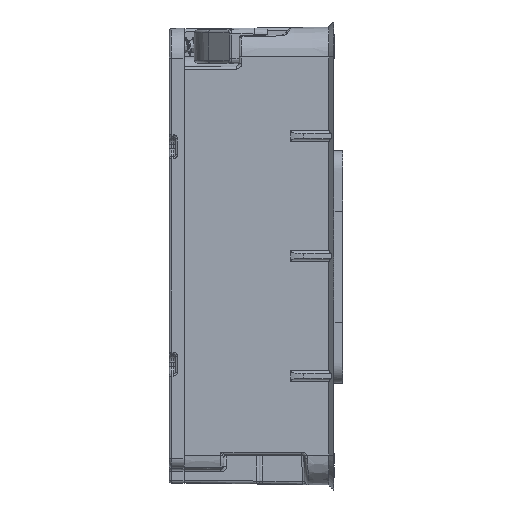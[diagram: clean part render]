
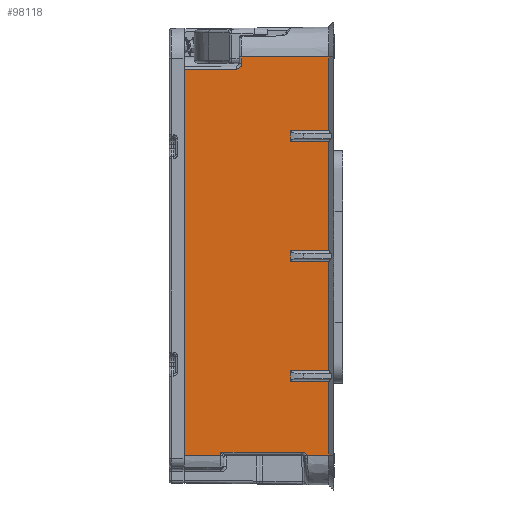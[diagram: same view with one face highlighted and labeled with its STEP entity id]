
A CAD part, left-side view. The second image highlights one B-rep face of the part: STEP entity #98118.
In plain terms, the highlighted planar face has unit normal (-1, 0.014, 0).
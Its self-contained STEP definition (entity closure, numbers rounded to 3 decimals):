
#1607=LINE('',#142205,#13844);
#1608=LINE('',#142210,#13845);
#1609=LINE('',#142215,#13846);
#1610=LINE('',#142216,#13847);
#1611=LINE('',#142220,#13848);
#1617=LINE('',#142272,#13854);
#1738=LINE('',#142592,#13975);
#1739=LINE('',#142594,#13976);
#1740=LINE('',#142596,#13977);
#1741=LINE('',#142597,#13978);
#1742=LINE('',#142601,#13979);
#1743=LINE('',#142603,#13980);
#1744=LINE('',#142605,#13981);
#1745=LINE('',#142607,#13982);
#1746=LINE('',#142609,#13983);
#1747=LINE('',#142612,#13984);
#1748=LINE('',#142614,#13985);
#1749=LINE('',#142616,#13986);
#1750=LINE('',#142617,#13987);
#1751=LINE('',#142619,#13988);
#1752=LINE('',#142621,#13989);
#13844=VECTOR('',#113316,1000.);
#13845=VECTOR('',#113321,1000.);
#13846=VECTOR('',#113326,1000.);
#13847=VECTOR('',#113327,1000.);
#13848=VECTOR('',#113332,1000.);
#13854=VECTOR('',#113348,1000.);
#13975=VECTOR('',#113567,1000.);
#13976=VECTOR('',#113568,1000.);
#13977=VECTOR('',#113569,1000.);
#13978=VECTOR('',#113570,1000.);
#13979=VECTOR('',#113573,1000.);
#13980=VECTOR('',#113574,1000.);
#13981=VECTOR('',#113575,1000.);
#13982=VECTOR('',#113576,1000.);
#13983=VECTOR('',#113577,1000.);
#13984=VECTOR('',#113580,1000.);
#13985=VECTOR('',#113581,1000.);
#13986=VECTOR('',#113582,1000.);
#13987=VECTOR('',#113583,1000.);
#13988=VECTOR('',#113584,1000.);
#13989=VECTOR('',#113585,1000.);
#25915=ELLIPSE('',#105964,0.6,0.6);
#25916=ELLIPSE('',#105965,0.6,0.6);
#27628=ORIENTED_EDGE('',*,*,#56876,.F.);
#27629=ORIENTED_EDGE('',*,*,#57045,.T.);
#27630=ORIENTED_EDGE('',*,*,#57046,.T.);
#27631=ORIENTED_EDGE('',*,*,#57047,.T.);
#27632=ORIENTED_EDGE('',*,*,#56883,.F.);
#27633=ORIENTED_EDGE('',*,*,#56900,.T.);
#27634=ORIENTED_EDGE('',*,*,#57048,.T.);
#27635=ORIENTED_EDGE('',*,*,#57049,.T.);
#27636=ORIENTED_EDGE('',*,*,#57050,.T.);
#27637=ORIENTED_EDGE('',*,*,#57051,.T.);
#27638=ORIENTED_EDGE('',*,*,#57052,.T.);
#27639=ORIENTED_EDGE('',*,*,#57053,.T.);
#27640=ORIENTED_EDGE('',*,*,#57054,.T.);
#27641=ORIENTED_EDGE('',*,*,#57055,.T.);
#27642=ORIENTED_EDGE('',*,*,#56885,.T.);
#27643=ORIENTED_EDGE('',*,*,#56882,.F.);
#27644=ORIENTED_EDGE('',*,*,#57056,.T.);
#27645=ORIENTED_EDGE('',*,*,#57057,.T.);
#27646=ORIENTED_EDGE('',*,*,#57058,.T.);
#27647=ORIENTED_EDGE('',*,*,#56879,.F.);
#27648=ORIENTED_EDGE('',*,*,#57059,.T.);
#27649=ORIENTED_EDGE('',*,*,#57060,.T.);
#27650=ORIENTED_EDGE('',*,*,#57061,.T.);
#56876=EDGE_CURVE('',#71609,#71610,#1607,.T.);
#56879=EDGE_CURVE('',#71611,#71612,#1608,.T.);
#56882=EDGE_CURVE('',#71613,#71498,#1609,.T.);
#56883=EDGE_CURVE('',#71512,#71614,#1610,.T.);
#56885=EDGE_CURVE('',#71615,#71498,#1611,.T.);
#56900=EDGE_CURVE('',#71512,#71629,#1617,.F.);
#57045=EDGE_CURVE('',#71609,#71756,#1738,.T.);
#57046=EDGE_CURVE('',#71756,#71757,#1739,.T.);
#57047=EDGE_CURVE('',#71757,#71614,#1740,.F.);
#57048=EDGE_CURVE('',#71629,#71758,#1741,.F.);
#57049=EDGE_CURVE('',#71758,#71759,#25915,.F.);
#57050=EDGE_CURVE('',#71759,#71760,#1742,.F.);
#57051=EDGE_CURVE('',#71760,#71761,#1743,.T.);
#57052=EDGE_CURVE('',#71761,#71762,#1744,.T.);
#57053=EDGE_CURVE('',#71762,#71763,#1745,.F.);
#57054=EDGE_CURVE('',#71763,#71764,#1746,.T.);
#57055=EDGE_CURVE('',#71764,#71615,#25916,.F.);
#57056=EDGE_CURVE('',#71613,#71765,#1747,.T.);
#57057=EDGE_CURVE('',#71765,#71766,#1748,.T.);
#57058=EDGE_CURVE('',#71766,#71612,#1749,.F.);
#57059=EDGE_CURVE('',#71611,#71767,#1750,.T.);
#57060=EDGE_CURVE('',#71767,#71768,#1751,.T.);
#57061=EDGE_CURVE('',#71768,#71610,#1752,.F.);
#71498=VERTEX_POINT('',#141623);
#71512=VERTEX_POINT('',#141656);
#71609=VERTEX_POINT('',#142204);
#71610=VERTEX_POINT('',#142206);
#71611=VERTEX_POINT('',#142209);
#71612=VERTEX_POINT('',#142211);
#71613=VERTEX_POINT('',#142214);
#71614=VERTEX_POINT('',#142217);
#71615=VERTEX_POINT('',#142221);
#71629=VERTEX_POINT('',#142271);
#71756=VERTEX_POINT('',#142593);
#71757=VERTEX_POINT('',#142595);
#71758=VERTEX_POINT('',#142598);
#71759=VERTEX_POINT('',#142600);
#71760=VERTEX_POINT('',#142602);
#71761=VERTEX_POINT('',#142604);
#71762=VERTEX_POINT('',#142606);
#71763=VERTEX_POINT('',#142608);
#71764=VERTEX_POINT('',#142610);
#71765=VERTEX_POINT('',#142613);
#71766=VERTEX_POINT('',#142615);
#71767=VERTEX_POINT('',#142618);
#71768=VERTEX_POINT('',#142620);
#82477=EDGE_LOOP('',(#27628,#27629,#27630,#27631,#27632,#27633,#27634,#27635,
#27636,#27637,#27638,#27639,#27640,#27641,#27642,#27643,#27644,#27645,#27646,
#27647,#27648,#27649,#27650));
#88229=FACE_BOUND('',#82477,.T.);
#93920=PLANE('',#105963);
#98118=ADVANCED_FACE('',(#88229),#93920,.T.);
#105963=AXIS2_PLACEMENT_3D('',#142591,#113565,#113566);
#105964=AXIS2_PLACEMENT_3D('',#142599,#113571,#113572);
#105965=AXIS2_PLACEMENT_3D('',#142611,#113578,#113579);
#113316=DIRECTION('',(0.,0.,-1.));
#113321=DIRECTION('',(0.,0.,-1.));
#113326=DIRECTION('',(0.,0.,-1.));
#113327=DIRECTION('',(0.,0.,-1.));
#113332=DIRECTION('',(-0.014,-1.,0.));
#113348=DIRECTION('',(-0.014,-1.,0.));
#113565=DIRECTION('',(-1.,0.014,0.));
#113566=DIRECTION('',(-0.014,-1.,0.));
#113567=DIRECTION('',(0.014,1.,0.009));
#113568=DIRECTION('',(0.,0.,1.));
#113569=DIRECTION('',(0.014,1.,-0.009));
#113570=DIRECTION('',(0.,0.,1.));
#113571=DIRECTION('',(-1.,0.014,0.));
#113572=DIRECTION('',(0.014,1.,0.));
#113573=DIRECTION('',(-0.014,-1.,0.017));
#113574=DIRECTION('',(0.,0.,-1.));
#113575=DIRECTION('',(-0.014,-1.,0.));
#113576=DIRECTION('',(0.,0.017,-1.));
#113577=DIRECTION('',(-0.014,-1.,0.));
#113578=DIRECTION('',(-1.,0.014,0.));
#113579=DIRECTION('',(0.014,1.,0.));
#113580=DIRECTION('',(0.014,1.,0.009));
#113581=DIRECTION('',(0.,0.,1.));
#113582=DIRECTION('',(0.014,1.,-0.009));
#113583=DIRECTION('',(0.014,1.,0.009));
#113584=DIRECTION('',(0.,0.,1.));
#113585=DIRECTION('',(0.014,1.,-0.009));
#141623=CARTESIAN_POINT('',(-10.65,0.5,-19.9));
#141656=CARTESIAN_POINT('',(-10.65,0.5,19.9));
#142204=CARTESIAN_POINT('',(-10.65,0.5,11.45));
#142205=CARTESIAN_POINT('',(-10.65,0.5,0.));
#142206=CARTESIAN_POINT('',(-10.65,0.5,0.55));
#142209=CARTESIAN_POINT('',(-10.65,0.5,-0.55));
#142210=CARTESIAN_POINT('',(-10.65,0.5,0.));
#142211=CARTESIAN_POINT('',(-10.65,0.5,-11.45));
#142214=CARTESIAN_POINT('',(-10.65,0.5,-12.55));
#142215=CARTESIAN_POINT('',(-10.65,0.5,0.));
#142216=CARTESIAN_POINT('',(-10.65,0.5,0.));
#142217=CARTESIAN_POINT('',(-10.65,0.5,12.55));
#142220=CARTESIAN_POINT('',(-10.65,0.5,-19.9));
#142221=CARTESIAN_POINT('',(-10.619,2.713,-19.9));
#142271=CARTESIAN_POINT('',(-10.528,9.204,19.9));
#142272=CARTESIAN_POINT('',(-10.65,0.5,19.9));
#142591=CARTESIAN_POINT('',(-10.65,0.5,0.));
#142592=CARTESIAN_POINT('',(-10.651,0.4,11.449));
#142593=CARTESIAN_POINT('',(-10.596,4.342,11.484));
#142594=CARTESIAN_POINT('',(-10.596,4.342,12.));
#142595=CARTESIAN_POINT('',(-10.596,4.342,12.516));
#142596=CARTESIAN_POINT('',(-10.648,0.609,12.549));
#142597=CARTESIAN_POINT('',(-10.528,9.204,0.));
#142598=CARTESIAN_POINT('',(-10.528,9.204,19.29));
#142599=CARTESIAN_POINT('',(-10.52,9.804,19.29));
#142600=CARTESIAN_POINT('',(-10.52,9.794,18.69));
#142601=CARTESIAN_POINT('',(-10.448,14.995,18.599));
#142602=CARTESIAN_POINT('',(-10.448,15.,18.599));
#142603=CARTESIAN_POINT('',(-10.448,15.,0.));
#142604=CARTESIAN_POINT('',(-10.448,15.,-19.9));
#142605=CARTESIAN_POINT('',(-10.65,0.5,-19.9));
#142606=CARTESIAN_POINT('',(-10.499,11.318,-19.9));
#142607=CARTESIAN_POINT('',(-10.504,10.968,0.183));
#142608=CARTESIAN_POINT('',(-10.499,11.313,-19.6));
#142609=CARTESIAN_POINT('',(-10.65,0.5,-19.6));
#142610=CARTESIAN_POINT('',(-10.612,3.233,-19.6));
#142611=CARTESIAN_POINT('',(-10.612,3.233,-20.2));
#142612=CARTESIAN_POINT('',(-10.648,0.609,-12.549));
#142613=CARTESIAN_POINT('',(-10.596,4.342,-12.516));
#142614=CARTESIAN_POINT('',(-10.596,4.342,-12.));
#142615=CARTESIAN_POINT('',(-10.596,4.342,-11.484));
#142616=CARTESIAN_POINT('',(-10.651,0.4,-11.449));
#142617=CARTESIAN_POINT('',(-10.65,0.505,-0.55));
#142618=CARTESIAN_POINT('',(-10.596,4.342,-0.516));
#142619=CARTESIAN_POINT('',(-10.596,4.342,0.));
#142620=CARTESIAN_POINT('',(-10.596,4.342,0.516));
#142621=CARTESIAN_POINT('',(-10.65,0.505,0.55));
